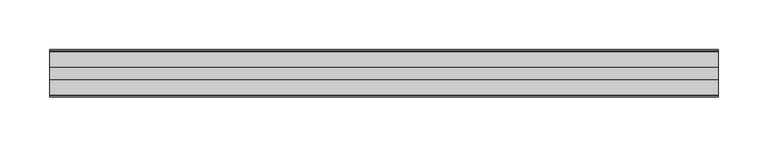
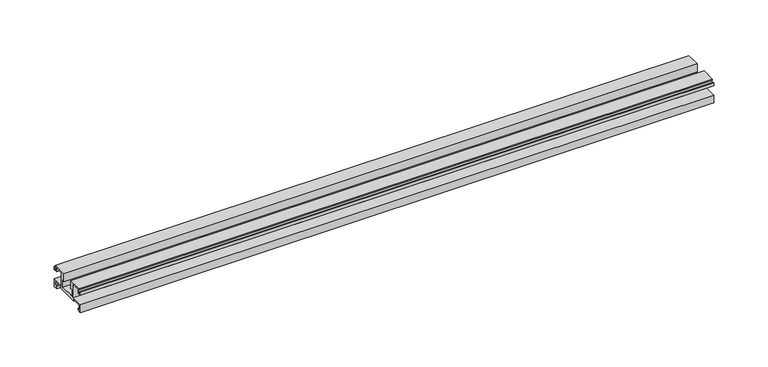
"""IFC4 building model written with IfcOpenShell, lengths in millimetres: proxy geometry, Weiku - Montante - Acoplamento vidro : Weiku - Montante - Acoplamento vidro."""

from ifc_helpers import new_model, si_unit, frame, origin, place, context, project, spatial, polyline, outline, extrude, source, transform, mapped, element, save


def generic_models_253d1652(model_context):
    return source(origin(), model_context, "Body", "SweptSolid", [
        extrude(outline(polyline([(35.405, 5.1494), (12.495, 5.1494), (12.495, 6.8004), (2.159, 6.8004), (2.159, 2.6094), (4.0216, 2.6094), (4.0216, 0.0), (-0.0014508, 0.0), (-0.0014508, 8.79), (12.954, 8.79), (12.954, 23.3104), (4.3603, 23.3104), (4.3603, 19.204), (0.0, 19.204), (0.0, 22.8024), (0.9736, 22.8024), (0.9736, 20.3894), (3.175, 20.3894), (3.175, 23.9454), (2.3735496, 23.9454), (2.3735496, 25.3), (17.4836, 25.3), (17.4836, 16.283), (15.4516, 16.283), (15.4516, 8.8), (32.4484, 8.8), (32.4484, 16.283), (30.4164, 16.283), (30.4164, 25.3), (45.5264504, 25.3), (45.5264504, 23.9454), (44.725, 23.9454), (44.725, 20.3894), (46.9264, 20.3894), (46.9264, 22.8024), (47.9, 22.8024), (47.9, 19.204), (43.5397, 19.204), (43.5397, 23.3104), (34.946, 23.3104), (34.946, 8.79), (47.9014508, 8.79), (47.9014508, 0.0), (43.8784, 0.0), (43.8784, 2.6094), (45.741, 2.6094), (45.741, 6.8004), (35.405, 6.8004), (35.405, 5.1494)])), frame((-335.85, 0.0, 0.0), z_axis=(1.0, 0.0, 0.0), x_axis=(0.0, 1.0, 0.0)), (0.0, 0.0, 1.0), 671.7),
    ])


if __name__ == "__main__":
    model = new_model("IFC4")
    model_context = context("Model", 3, world=origin())
    ifc_project = project(units=[si_unit("LENGTHUNIT", "METRE", prefix="MILLI")], contexts=[model_context])
    site = spatial("IfcSite", under=ifc_project)
    building = spatial("IfcBuilding", under=site)
    placement = place(None, origin())
    generic_models_shape = generic_models_253d1652(model_context)
    element("IfcBuildingElementProxy", 1, Name="Weiku - Montante - Acoplamento vidro : Weiku - Montante - Acoplamento vidro", ObjectType="Weiku - Montante - Acoplamento vidro : Weiku - Montante - Acoplamento vidro", at=placement, inside=building, context=model_context, shape_type="MappedRepresentation", body=[
        mapped(generic_models_shape, transform((0.0, 0.0, 0.0), x_axis=(1.0, 0.0, 0.0), y_axis=(0.0, 1.0, 0.0), z_axis=(0.0, 0.0, 1.0))),
    ])
    save(model, "model.ifc")
